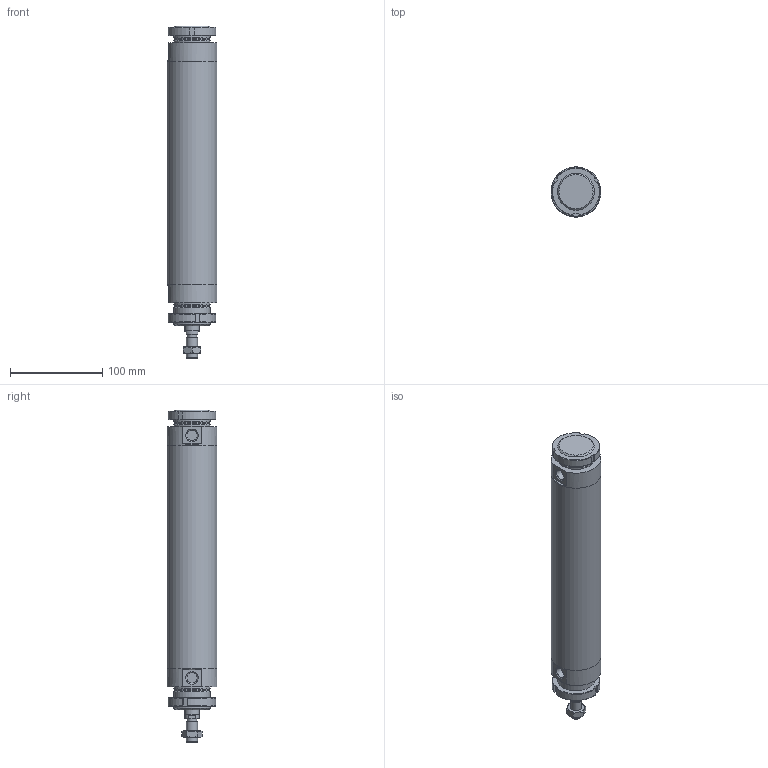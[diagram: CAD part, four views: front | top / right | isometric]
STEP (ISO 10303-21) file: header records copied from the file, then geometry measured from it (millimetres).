
FILE_DESCRIPTION(/* description */ (''),/* implementation_level */ '2;1');
FILE_NAME(/* name */ 'I:\Area Tecnica\Documenti\A-Manieri\_Inventor\12X\12X#C_###_####_#_#\12XAC_050_0200_#_#.stp',/* time_stamp */ '2015-04-28T15:19:58+02:00',/* author */ ('maniean1'),/* organization */ ('Pneumax S.p.A.'),/* preprocessor_version */ 'ST-DEVELOPER v15.2',/* originating_system */ 'Autodesk Inventor 2014',/* authorisation */ '');
FILE_SCHEMA (('AUTOMOTIVE_DESIGN { 1 0 10303 214 3 1 1 }'));
Length unit declared in the file: millimetre
Products named in the file (7): C1250_619-0200; 12X50_604; S12X50_0200; 12X_50_11; 12X50_620; G12X_050_05; 12XAC_050_0200_#_#
Bounding box: 54 x 54 x 360 mm (x, y, z)
Volume: 366979.4 mm3; surface area: 137105 mm2
Topology: 7 solids, 7 shells, 106 faces, 240 edges, 154 vertices
Faces by surface type: plane 52, cylinder 27, cone 27
Full cylindrical faces by diameter (mm): 10.2 x1, 11.4 x2, 12 x2, 14 x1, 15.6 x1, 16 x1, 38.2 x2, 40 x6, 50 x2, 54 x3
Entity records: 2243 total; most frequent: CARTESIAN_POINT 413, DIRECTION 382, ORIENTED_EDGE 292, AXIS2_PLACEMENT_3D 165, EDGE_CURVE 146, EDGE_LOOP 132, VERTEX_POINT 112, ADVANCED_FACE 85
